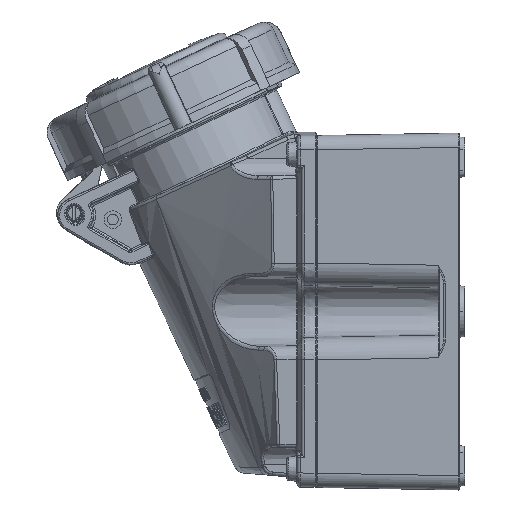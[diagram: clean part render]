
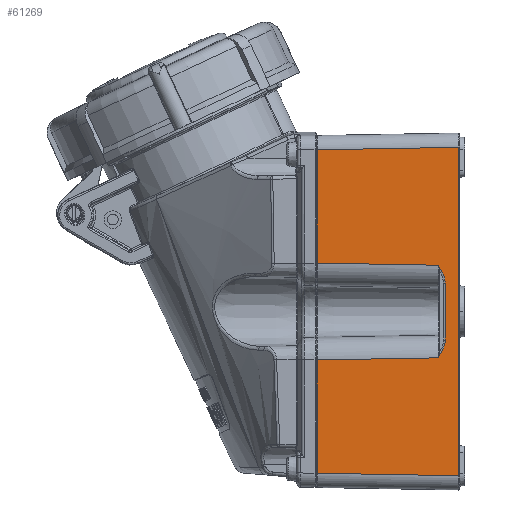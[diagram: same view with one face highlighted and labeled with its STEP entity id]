
A CAD part, left-side view. The second image highlights one B-rep face of the part: STEP entity #61269.
In plain terms, the highlighted planar face has unit normal (-1, 0.018, 0).
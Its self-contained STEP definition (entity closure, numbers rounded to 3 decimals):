
#12936=CARTESIAN_POINT('',(-50.43,0.017,
7.975));
#12937=CARTESIAN_POINT('',(-50.43,0.017,
8.115));
#12938=CARTESIAN_POINT('',(-50.43,0.031,
8.41));
#12939=CARTESIAN_POINT('',(-50.428,0.1,
8.892));
#12940=CARTESIAN_POINT('',(-50.426,0.226,
9.428));
#12941=CARTESIAN_POINT('',(-50.423,0.42,
10.019));
#12942=CARTESIAN_POINT('',(-50.418,0.69,
10.665));
#12943=CARTESIAN_POINT('',(-50.412,1.042,
11.367));
#12944=CARTESIAN_POINT('',(-50.404,1.475,
12.129));
#12945=CARTESIAN_POINT('',(-50.399,1.807,
12.675));
#12946=CARTESIAN_POINT('',(-50.396,1.983,
12.959));
#12951=DIRECTION('',(-0.017,-1.,-0.017));
#12952=VECTOR('',#12951,33.883);
#12953=CARTESIAN_POINT('',(-49.804,35.855,
13.55));
#12954=LINE('2084',#12953,#12952);
#12958=DIRECTION('',(0.,0.,1.));
#12959=VECTOR('',#12958,31.705);
#12960=CARTESIAN_POINT('',(-49.804,35.855,
13.55));
#12961=LINE('2045',#12960,#12959);
#12965=DIRECTION('',(-0.017,-1.,0.017));
#12966=VECTOR('',#12965,39.664);
#12967=CARTESIAN_POINT('',(-49.804,35.855,
45.255));
#12968=LINE('2131',#12967,#12966);
#12972=DIRECTION('',(0.,0.,-1.));
#12973=VECTOR('',#12972,91.894);
#12974=CARTESIAN_POINT('',(-50.496,-3.797,
45.947));
#12975=LINE('2104',#12974,#12973);
#12979=DIRECTION('',(0.017,1.,0.017));
#12980=VECTOR('',#12979,39.664);
#12981=CARTESIAN_POINT('',(-50.496,-3.797,
-45.947));
#12982=LINE('2127',#12981,#12980);
#12986=DIRECTION('',(0.,0.,1.));
#12987=VECTOR('',#12986,31.705);
#12988=CARTESIAN_POINT('',(-49.804,35.855,
-45.255));
#12989=LINE('2038',#12988,#12987);
#12993=DIRECTION('',(-0.017,-1.,0.017));
#12994=VECTOR('',#12993,33.883);
#12995=CARTESIAN_POINT('',(-49.804,35.855,
-13.55));
#12996=LINE('2083',#12995,#12994);
#13000=CARTESIAN_POINT('',(-50.396,1.983,
-12.959));
#13001=CARTESIAN_POINT('',(-50.399,1.807,
-12.675));
#13002=CARTESIAN_POINT('',(-50.404,1.475,
-12.129));
#13003=CARTESIAN_POINT('',(-50.412,1.041,
-11.367));
#13004=CARTESIAN_POINT('',(-50.418,0.69,
-10.664));
#13005=CARTESIAN_POINT('',(-50.423,0.42,
-10.018));
#13006=CARTESIAN_POINT('',(-50.426,0.226,
-9.428));
#13007=CARTESIAN_POINT('',(-50.428,0.1,
-8.892));
#13008=CARTESIAN_POINT('',(-50.43,0.031,
-8.41));
#13009=CARTESIAN_POINT('',(-50.43,0.017,
-8.115));
#13010=CARTESIAN_POINT('',(-50.43,0.017,
-7.975));
#13015=DIRECTION('',(0.,0.,1.));
#13016=VECTOR('',#13015,15.951);
#13017=CARTESIAN_POINT('',(-50.43,0.017,
-7.975));
#13018=LINE('2076',#13017,#13016);
#13447=CARTESIAN_POINT('',(-49.804,35.855,
13.55));
#13980=CARTESIAN_POINT('',(-50.496,-3.797,
45.947));
#14569=CARTESIAN_POINT('',(-49.804,35.855,
-45.255));
#14574=CARTESIAN_POINT('',(-50.496,-3.797,
-45.947));
#40002=VERTEX_POINT('',#14569);
#40005=CARTESIAN_POINT('',(-49.804,35.855,
-13.55));
#40006=VERTEX_POINT('',#40005);
#40014=VERTEX_POINT('',#13447);
#40019=CARTESIAN_POINT('',(-49.804,35.855,
45.255));
#40020=VERTEX_POINT('',#40019);
#40040=VERTEX_POINT('',#12936);
#40041=VERTEX_POINT('',#12946);
#40042=CARTESIAN_POINT('',(-50.43,0.017,
-7.975));
#40043=VERTEX_POINT('',#40042);
#40044=VERTEX_POINT('',#13000);
#40052=VERTEX_POINT('',#14574);
#40071=VERTEX_POINT('',#13980);
#61244=CARTESIAN_POINT('',(-50.5,-4.,-52.15));
#61245=DIRECTION('',(-1.,0.017,0.));
#61246=DIRECTION('',(0.,0.,-1.));
#61247=AXIS2_PLACEMENT_3D('',#61244,#61245,#61246);
#61248=PLANE('407',#61247);
#61250=ORIENTED_EDGE('2075',*,*,#61249,.T.);
#61252=ORIENTED_EDGE('2084',*,*,#61251,.F.);
#61254=ORIENTED_EDGE('2045',*,*,#61253,.T.);
#61256=ORIENTED_EDGE('2131',*,*,#61255,.T.);
#61257=ORIENTED_EDGE('2104',*,*,#61226,.T.);
#61259=ORIENTED_EDGE('2127',*,*,#61258,.T.);
#61260=ORIENTED_EDGE('2038',*,*,#48054,.T.);
#61262=ORIENTED_EDGE('2083',*,*,#61261,.T.);
#61264=ORIENTED_EDGE('2077',*,*,#61263,.T.);
#61266=ORIENTED_EDGE('2076',*,*,#61265,.T.);
#61267=EDGE_LOOP('407',(#61250,#61252,#61254,#61256,#61257,#61259,#61260,#61262,
#61264,#61266));
#61268=FACE_OUTER_BOUND('407',#61267,.F.);
#12947=B_SPLINE_CURVE_WITH_KNOTS('2075',3,(#12936,#12937,#12938,#12939,#12940,
#12941,#12942,#12943,#12944,#12945,#12946),.UNSPECIFIED.,.F.,.F.,(4,1,1,1,1,1,1,
1,4),(0.,0.125,0.25,0.375,0.5,0.625,0.75,0.875,1.),
.UNSPECIFIED.);
#13011=B_SPLINE_CURVE_WITH_KNOTS('2077',3,(#13000,#13001,#13002,#13003,#13004,
#13005,#13006,#13007,#13008,#13009,#13010),.UNSPECIFIED.,.F.,.F.,(4,1,1,1,1,1,1,
1,4),(0.,0.125,0.25,0.375,0.5,0.625,0.75,0.875,1.),
.UNSPECIFIED.);
#48054=EDGE_CURVE('2038',#40002,#40006,#12989,.T.);
#61226=EDGE_CURVE('2104',#40071,#40052,#12975,.T.);
#61249=EDGE_CURVE('2075',#40040,#40041,#12947,.T.);
#61251=EDGE_CURVE('2084',#40014,#40041,#12954,.T.);
#61253=EDGE_CURVE('2045',#40014,#40020,#12961,.T.);
#61255=EDGE_CURVE('2131',#40020,#40071,#12968,.T.);
#61258=EDGE_CURVE('2127',#40052,#40002,#12982,.T.);
#61261=EDGE_CURVE('2083',#40006,#40044,#12996,.T.);
#61263=EDGE_CURVE('2077',#40044,#40043,#13011,.T.);
#61265=EDGE_CURVE('2076',#40043,#40040,#13018,.T.);
#61269=ADVANCED_FACE('407',(#61268),#61248,.T.);
